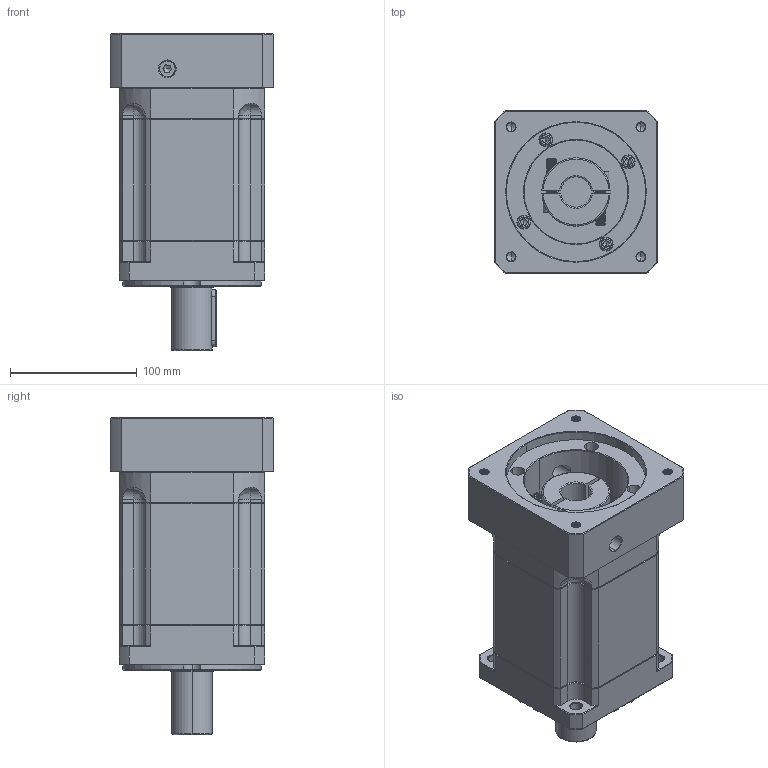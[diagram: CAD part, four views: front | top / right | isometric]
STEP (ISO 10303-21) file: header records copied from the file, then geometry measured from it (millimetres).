
FILE_DESCRIPTION (( 'STEP AP214' ), '1' );
FILE_NAME ('ZB115A-D32-L3-P2-24-110-145-M8.step', '2023-08-26T06:33:01', ( '' ), ( '' ), 'SwSTEP 2.0', 'SolidWorks 2016', '' );
FILE_SCHEMA (( 'AUTOMOTIVE_DESIGN' ));
Length unit declared in the file: millimetre
Products named in the file (1): ZB115A-D32-L3-P2-24-110-145-M8
Bounding box: 128 x 128 x 250.5 mm (x, y, z)
Volume: 2286209.1 mm3; surface area: 203413 mm2
Topology: 6 solids, 6 shells, 2391 faces, 6269 edges, 3977 vertices
Faces by surface type: plane 1143, cylinder 439, bspline 423, cone 366, torus 20
Entity records: 129010 total; most frequent: CARTESIAN_POINT 47432, ORIENTED_EDGE 12470, DIRECTION 9868, EDGE_CURVE 6235, VECTOR 3994, LINE 3994, VERTEX_POINT 3977, AXIS2_PLACEMENT_3D 2937
